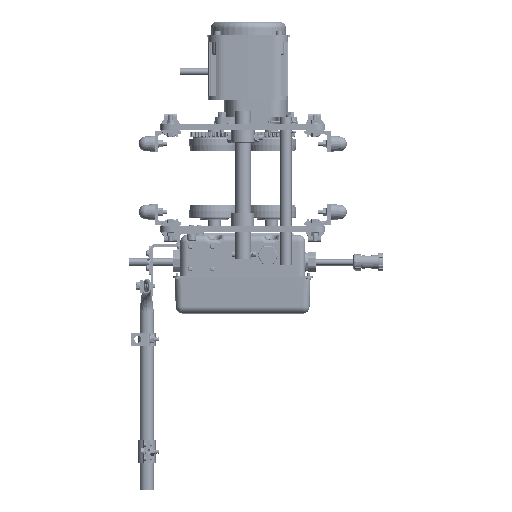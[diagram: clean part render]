
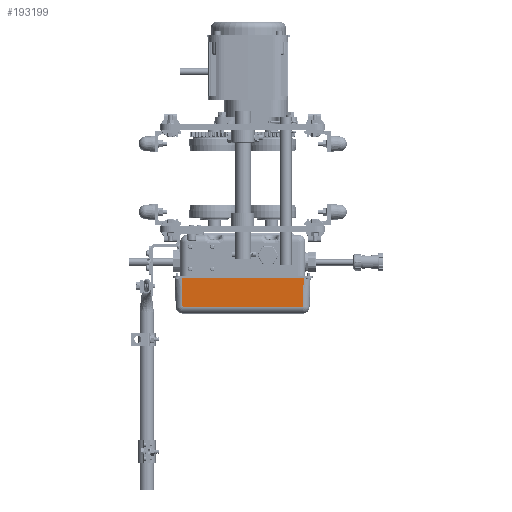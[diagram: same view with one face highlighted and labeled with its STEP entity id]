
A CAD part, front view. The second image highlights one B-rep face of the part: STEP entity #193199.
In plain terms, the highlighted planar face has unit normal (0, -0.999, -0.035) as drawn and (-0.035, -0.999, 0) by its records, which use the part's own axes.
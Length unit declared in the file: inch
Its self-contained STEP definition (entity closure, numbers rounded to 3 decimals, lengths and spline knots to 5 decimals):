
#2649 = EDGE_CURVE ( 'NONE', #51563, #96714, #179754, .T. ) ;
#15281 = EDGE_CURVE ( 'NONE', #20485, #51563, #179881, .T. ) ;
#15858 = VERTEX_POINT ( 'NONE', #87992 ) ;
#20485 = VERTEX_POINT ( 'NONE', #24201 ) ;
#24201 = CARTESIAN_POINT ( 'NONE',  ( -2.22259, 0.46994, 9.75453 ) ) ;
#24776 = CARTESIAN_POINT ( 'NONE',  ( -2.22259, 0.46994, 0.73446 ) ) ;
#32572 = DIRECTION ( 'NONE',  ( 0.999, -0.035, 0. ) ) ;
#46727 = CARTESIAN_POINT ( 'NONE',  ( -2.69872, 0.48657, 9.7379 ) ) ;
#46835 = CARTESIAN_POINT ( 'NONE',  ( -2.22259, 0.46994, 10.47244 ) ) ;
#49327 = FACE_OUTER_BOUND ( 'NONE', #112915, .T. ) ;
#51563 = VERTEX_POINT ( 'NONE', #24776 ) ;
#62467 = DIRECTION ( 'NONE',  ( 0.999, -0.035, -0.035 ) ) ;
#67428 = VECTOR ( 'NONE', #76322, 39.37008 ) ;
#68490 = LINE ( 'NONE', #156190, #96244 ) ;
#76322 = DIRECTION ( 'NONE',  ( 0., 0., -1. ) ) ;
#80628 = ORIENTED_EDGE ( 'NONE', *, *, #193545, .F. ) ;
#87992 = CARTESIAN_POINT ( 'NONE',  ( -0.03937, 0.3937, 9.83076 ) ) ;
#96244 = VECTOR ( 'NONE', #152539, 39.37008 ) ;
#96714 = VERTEX_POINT ( 'NONE', #136041 ) ;
#104816 = CARTESIAN_POINT ( 'NONE',  ( -1.42092, 0.44195, 0.70647 ) ) ;
#106813 = DIRECTION ( 'NONE',  ( -0.999, 0.035, -0.035 ) ) ;
#108096 = ORIENTED_EDGE ( 'NONE', *, *, #15281, .T. ) ;
#112915 = EDGE_LOOP ( 'NONE', ( #80628, #143695, #108096, #130004 ) ) ;
#130004 = ORIENTED_EDGE ( 'NONE', *, *, #2649, .T. ) ;
#135803 = VECTOR ( 'NONE', #106813, 39.37008 ) ;
#136041 = CARTESIAN_POINT ( 'NONE',  ( -0.03937, 0.3937, 0.65822 ) ) ;
#136997 = AXIS2_PLACEMENT_3D ( 'NONE', #169545, #167588, #32572 ) ;
#143579 = VECTOR ( 'NONE', #62467, 39.37008 ) ;
#143695 = ORIENTED_EDGE ( 'NONE', *, *, #182069, .T. ) ;
#152539 = DIRECTION ( 'NONE',  ( 0., 0., -1. ) ) ;
#156190 = CARTESIAN_POINT ( 'NONE',  ( -0.03937, 0.3937, 10.47244 ) ) ;
#167588 = DIRECTION ( 'NONE',  ( -0.035, -0.999, 0. ) ) ;
#169545 = CARTESIAN_POINT ( 'NONE',  ( -1.0803, 0.43005, 10.47244 ) ) ;
#170505 = PLANE ( 'NONE',  #136997 ) ;
#179754 = LINE ( 'NONE', #104816, #143579 ) ;
#179881 = LINE ( 'NONE', #46835, #67428 ) ;
#181728 = LINE ( 'NONE', #46727, #135803 ) ;
#182069 = EDGE_CURVE ( 'NONE', #15858, #20485, #181728, .T. ) ;
#193199 = ADVANCED_FACE ( 'NONE', ( #49327 ), #170505, .T. ) ;
#193545 = EDGE_CURVE ( 'NONE', #15858, #96714, #68490, .T. ) ;
